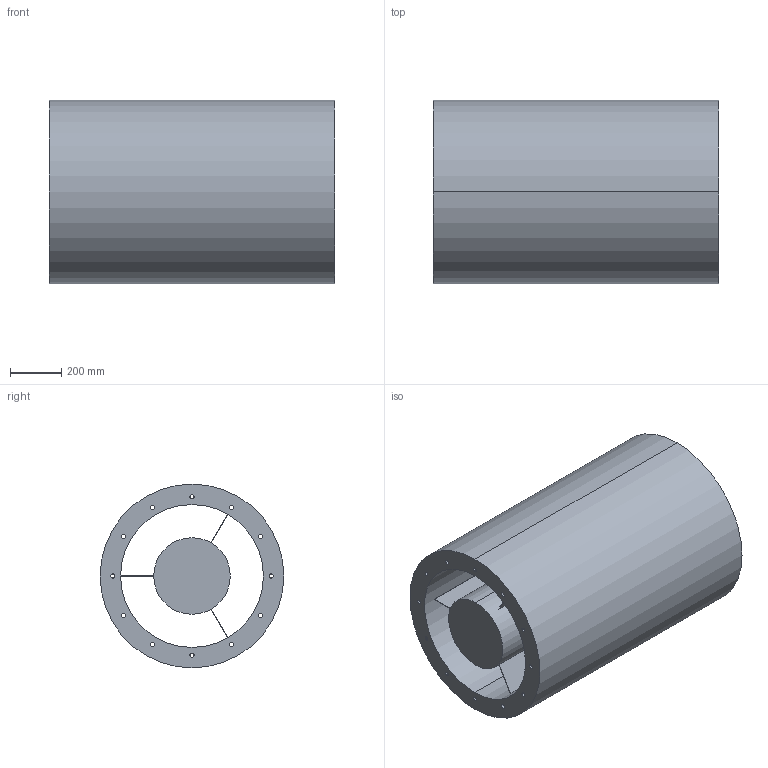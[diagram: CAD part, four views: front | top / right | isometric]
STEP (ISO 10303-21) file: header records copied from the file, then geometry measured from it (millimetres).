
FILE_DESCRIPTION(('STEP AP214'),'1');
FILE_NAME('accessory_5211814400.stp','2017-10-09T11:37:28',('TraceParts'),('TraceParts S.A.'),'Spatial InterOp 3D',' ',' ');
FILE_SCHEMA(('automotive_design'));
Length unit declared in the file: millimetre
Products named in the file (1): accessory_5211814400
Bounding box: 1120 x 720 x 720 mm (x, y, z)
Volume: 249638639.8 mm3; surface area: 7228157.2 mm2
Topology: 1 solids, 1 shells, 48 faces, 131 edges, 87 vertices
Faces by surface type: cylinder 30, plane 16, torus 2
Entity records: 2024 total; most frequent: DIRECTION 306, CARTESIAN_POINT 267, ORIENTED_EDGE 262, EDGE_CURVE 131, AXIS2_PLACEMENT_3D 126, VERTEX_POINT 87, EDGE_LOOP 80, CIRCLE 77
